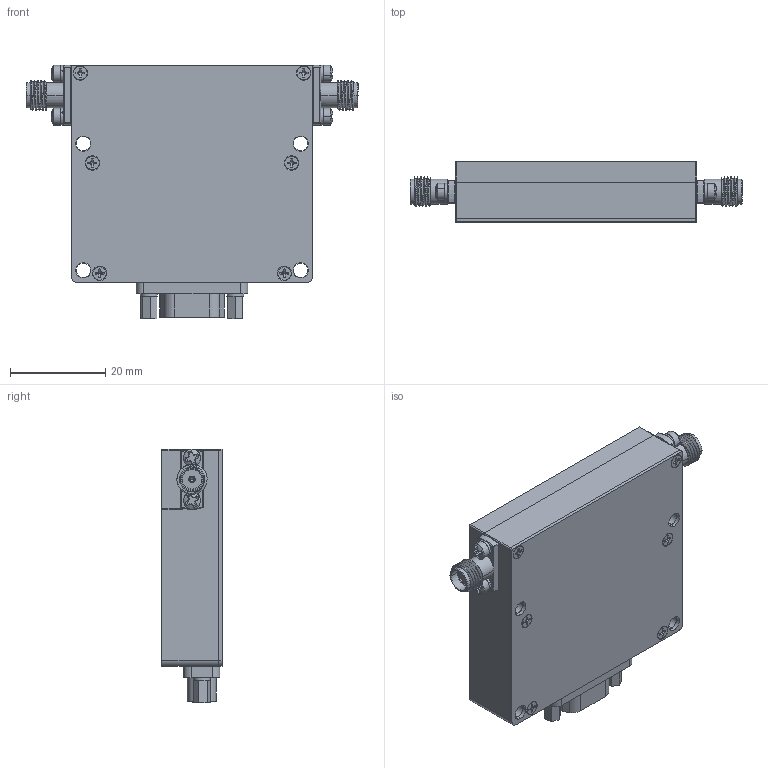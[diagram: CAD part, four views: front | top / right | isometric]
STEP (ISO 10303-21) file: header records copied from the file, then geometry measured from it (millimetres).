
FILE_DESCRIPTION (( 'STEP AP214' ), '1' );
FILE_NAME ('DTA-200M18G-60-CD-EXT.STEP', '2025-03-21T17:18:26', ( '' ), ( '' ), 'SwSTEP 2.0', 'SolidWorks 2024', '' );
FILE_SCHEMA (( 'AUTOMOTIVE_DESIGN' ));
Length unit declared in the file: inch
Products named in the file (1): DTA-200M18G-60-CD-EXT
Bounding box: 69.85 x 12.7 x 53.39 mm (x, y, z)
Volume: 14502.9 mm3; surface area: 21833.1 mm2
Topology: 57 solids, 57 shells, 2352 faces, 6010 edges, 3821 vertices
Faces by surface type: plane 972, cylinder 928, cone 340, torus 84, sphere 24, bspline 4
Entity records: 95373 total; most frequent: CARTESIAN_POINT 16488, DIRECTION 12484, ORIENTED_EDGE 11772, EDGE_CURVE 5886, AXIS2_PLACEMENT_3D 4833, VERTEX_POINT 3821, LINE 2818, VECTOR 2818
